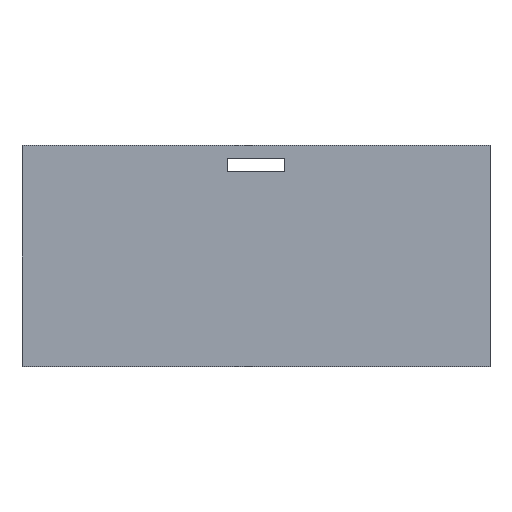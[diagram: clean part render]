
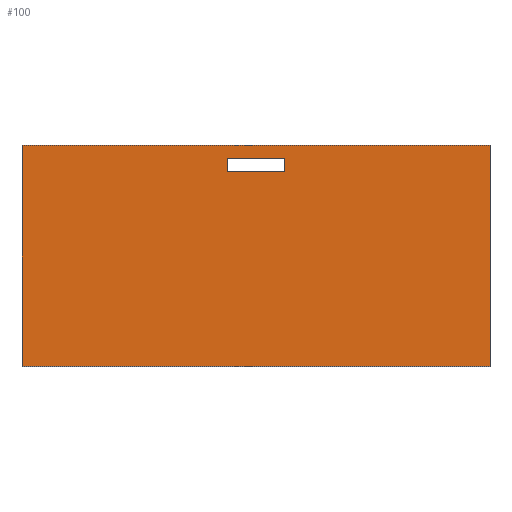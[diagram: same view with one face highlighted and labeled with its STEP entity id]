
A CAD part, top view. The second image highlights one B-rep face of the part: STEP entity #100.
In plain terms, the highlighted planar face has unit normal (0, 0, 1).
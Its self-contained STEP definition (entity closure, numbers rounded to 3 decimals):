
#8 = FACE_OUTER_BOUND ( 'NONE', #324, .T. ) ;
#9 = ORIENTED_EDGE ( 'NONE', *, *, #33, .T. ) ;
#17 = DIRECTION ( 'NONE',  ( 0., 0., -1. ) ) ;
#32 = DIRECTION ( 'NONE',  ( -1., 0., 0. ) ) ;
#33 = EDGE_CURVE ( 'NONE', #314, #179, #238, .T. ) ;
#34 = VECTOR ( 'NONE', #253, 1000. ) ;
#47 = CARTESIAN_POINT ( 'NONE',  ( -90., 42.5, 0.5 ) ) ;
#65 = CARTESIAN_POINT ( 'NONE',  ( -11., 37.5, 0.5 ) ) ;
#73 = FACE_BOUND ( 'NONE', #252, .T. ) ;
#74 = ORIENTED_EDGE ( 'NONE', *, *, #276, .F. ) ;
#75 = VECTOR ( 'NONE', #90, 1000. ) ;
#78 = DIRECTION ( 'NONE',  ( -1., 0., 0. ) ) ;
#87 = DIRECTION ( 'NONE',  ( 1., 0., 0. ) ) ;
#90 = DIRECTION ( 'NONE',  ( 0., -1., 0. ) ) ;
#97 = CARTESIAN_POINT ( 'NONE',  ( -90., -42.5, 0.5 ) ) ;
#100 = ADVANCED_FACE ( 'NONE', ( #73, #8 ), #268, .F. ) ;
#101 = LINE ( 'NONE', #370, #322 ) ;
#115 = VECTOR ( 'NONE', #196, 1000. ) ;
#120 = VECTOR ( 'NONE', #32, 1000. ) ;
#123 = VERTEX_POINT ( 'NONE', #305 ) ;
#125 = CARTESIAN_POINT ( 'NONE',  ( 90., -42.5, 0.5 ) ) ;
#127 = ORIENTED_EDGE ( 'NONE', *, *, #297, .F. ) ;
#129 = LINE ( 'NONE', #347, #120 ) ;
#132 = VERTEX_POINT ( 'NONE', #300 ) ;
#143 = ORIENTED_EDGE ( 'NONE', *, *, #271, .T. ) ;
#162 = ORIENTED_EDGE ( 'NONE', *, *, #333, .T. ) ;
#165 = ORIENTED_EDGE ( 'NONE', *, *, #180, .F. ) ;
#170 = CARTESIAN_POINT ( 'NONE',  ( -90., 42.5, 0.5 ) ) ;
#173 = VECTOR ( 'NONE', #78, 1000. ) ;
#174 = ORIENTED_EDGE ( 'NONE', *, *, #247, .T. ) ;
#178 = VECTOR ( 'NONE', #348, 1000. ) ;
#179 = VERTEX_POINT ( 'NONE', #170 ) ;
#180 = EDGE_CURVE ( 'NONE', #123, #132, #101, .T. ) ;
#182 = LINE ( 'NONE', #338, #75 ) ;
#187 = LINE ( 'NONE', #125, #115 ) ;
#189 = CARTESIAN_POINT ( 'NONE',  ( 0., 0., 0.5 ) ) ;
#196 = DIRECTION ( 'NONE',  ( 0., 1., 0. ) ) ;
#201 = LINE ( 'NONE', #293, #34 ) ;
#206 = VERTEX_POINT ( 'NONE', #221 ) ;
#221 = CARTESIAN_POINT ( 'NONE',  ( -90., -42.5, 0.5 ) ) ;
#228 = CARTESIAN_POINT ( 'NONE',  ( 90., -42.5, 0.5 ) ) ;
#238 = LINE ( 'NONE', #47, #173 ) ;
#243 = CARTESIAN_POINT ( 'NONE',  ( -11., 32.5, 0.5 ) ) ;
#247 = EDGE_CURVE ( 'NONE', #179, #206, #182, .T. ) ;
#248 = CARTESIAN_POINT ( 'NONE',  ( -11., 32.5, 0.5 ) ) ;
#252 = EDGE_LOOP ( 'NONE', ( #74, #367, #127, #165 ) ) ;
#253 = DIRECTION ( 'NONE',  ( 0., -1., 0. ) ) ;
#268 = PLANE ( 'NONE',  #315 ) ;
#271 = EDGE_CURVE ( 'NONE', #308, #314, #187, .T. ) ;
#276 = EDGE_CURVE ( 'NONE', #358, #123, #321, .T. ) ;
#279 = LINE ( 'NONE', #97, #178 ) ;
#280 = VERTEX_POINT ( 'NONE', #65 ) ;
#283 = DIRECTION ( 'NONE',  ( 0., 1., 0. ) ) ;
#288 = CARTESIAN_POINT ( 'NONE',  ( 90., 42.5, 0.5 ) ) ;
#293 = CARTESIAN_POINT ( 'NONE',  ( -11., 37.5, 0.5 ) ) ;
#297 = EDGE_CURVE ( 'NONE', #132, #280, #129, .T. ) ;
#300 = CARTESIAN_POINT ( 'NONE',  ( 11., 37.5, 0.5 ) ) ;
#301 = VECTOR ( 'NONE', #87, 1000. ) ;
#304 = DIRECTION ( 'NONE',  ( -1., 0., 0. ) ) ;
#305 = CARTESIAN_POINT ( 'NONE',  ( 11., 32.5, 0.5 ) ) ;
#308 = VERTEX_POINT ( 'NONE', #228 ) ;
#314 = VERTEX_POINT ( 'NONE', #288 ) ;
#315 = AXIS2_PLACEMENT_3D ( 'NONE', #189, #17, #304 ) ;
#321 = LINE ( 'NONE', #243, #301 ) ;
#322 = VECTOR ( 'NONE', #283, 1000. ) ;
#324 = EDGE_LOOP ( 'NONE', ( #143, #9, #174, #162 ) ) ;
#333 = EDGE_CURVE ( 'NONE', #206, #308, #279, .T. ) ;
#338 = CARTESIAN_POINT ( 'NONE',  ( -90., -42.5, 0.5 ) ) ;
#340 = EDGE_CURVE ( 'NONE', #280, #358, #201, .T. ) ;
#347 = CARTESIAN_POINT ( 'NONE',  ( -11., 37.5, 0.5 ) ) ;
#348 = DIRECTION ( 'NONE',  ( 1., 0., 0. ) ) ;
#358 = VERTEX_POINT ( 'NONE', #248 ) ;
#367 = ORIENTED_EDGE ( 'NONE', *, *, #340, .F. ) ;
#370 = CARTESIAN_POINT ( 'NONE',  ( 11., 37.5, 0.5 ) ) ;
